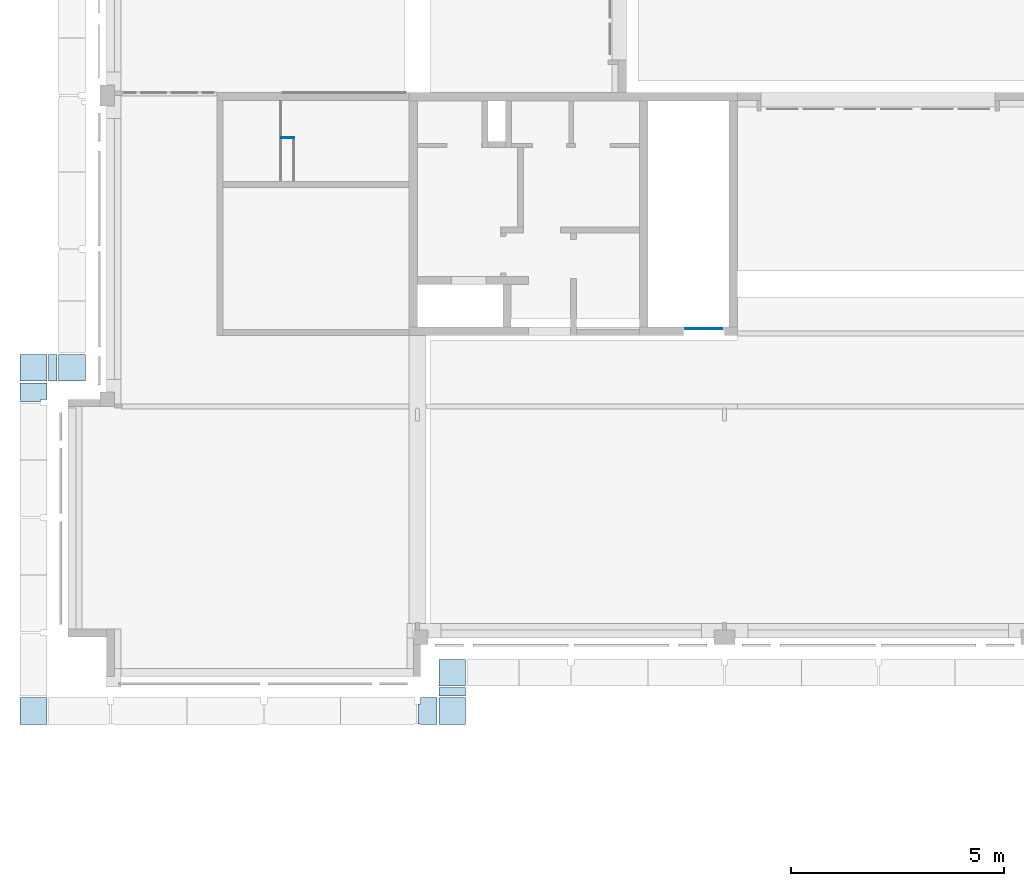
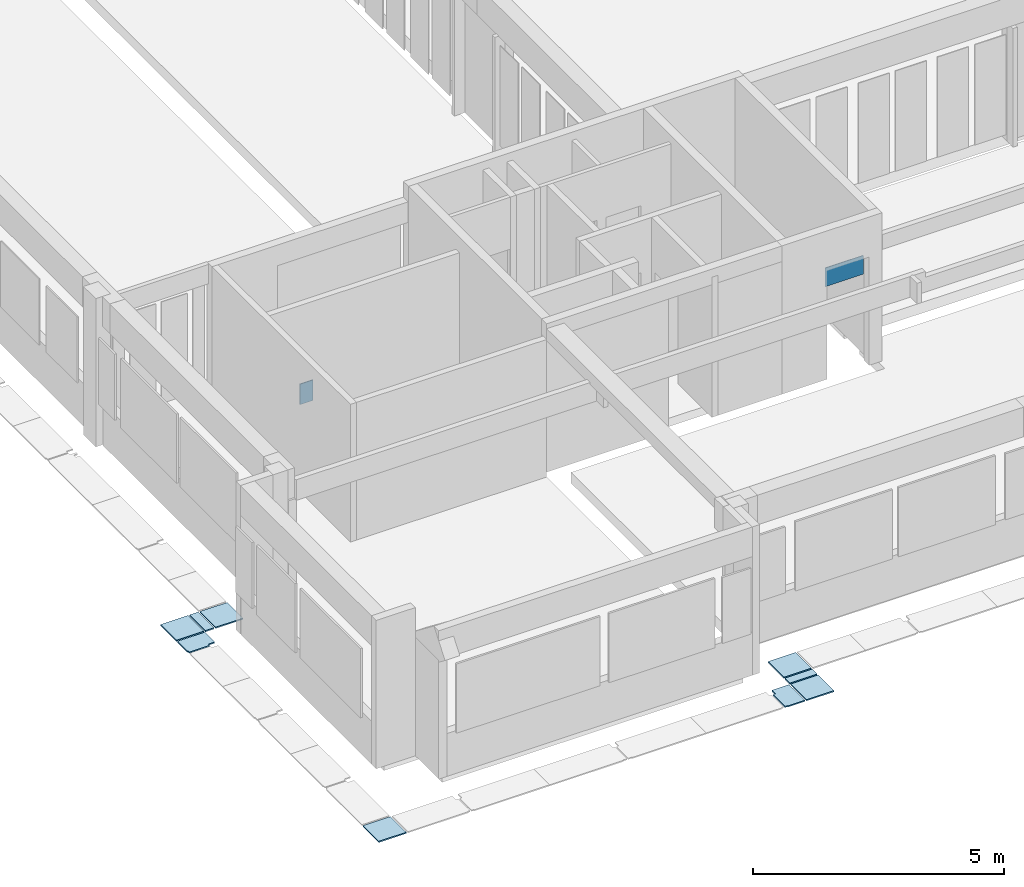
# One storey, part 11 of 30: 10 slabs, 1 plate.
"""IFC4X3_ADD2 building model written with IfcOpenShell, lengths in millimetres."""

from ifc_helpers import new_model, si_unit, direction, frame, frame_2d, origin_with_axes, origin_2d_with_axis, place, context, subcontext, project, spatial, polyline, rectangle, outline, extrude, source, transform, mapped, material, type_object, element, save


model = new_model("IFC4X3_ADD2")

# Units and contexts
model_context = context("Model", 3, precision=1e-05, world=origin_with_axes(), true_north=direction((0.0, 1.0)))
body_context = subcontext(model_context, "Body", "Model", "MODEL_VIEW")
ifc_project = project(units=[si_unit("LENGTHUNIT", "METRE", prefix="MILLI"), si_unit("AREAUNIT", "SQUARE_METRE"), si_unit("VOLUMEUNIT", "CUBIC_METRE"), si_unit("PLANEANGLEUNIT", "RADIAN"), si_unit("TIMEUNIT", "SECOND"), si_unit("MASSUNIT", "GRAM")], contexts=[model_context])

# Site, building, storey
site_placement = place(None, origin_with_axes())
site = spatial("IfcSite", under=ifc_project, at=site_placement, Name="Site", CompositionType="ELEMENT")
building_placement = place(site_placement, origin_with_axes())
building = spatial("IfcBuilding", under=site, at=building_placement, Name="IFC Building Story")
storey_placement = place(building_placement, origin_with_axes())
storey = spatial("IfcBuildingStorey", under=building, at=storey_placement, Name="000", Elevation=0.0)

# Plate
ifc_material_1 = material(Name="BB_Glas")
shared_shape = source(origin_with_axes(), body_context, "Body", "SweptSolid", [
    extrude(rectangle(XDim=878.000000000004, YDim=454.000000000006, at=origin_2d_with_axis()), frame((0.0, 0.0, -17.0), z_axis=(0.0, 0.0, 1.0), x_axis=(1.0, 0.0, 0.0)), (0.0, 0.0, 1.0), 17.0),
])
plate_placement = place(storey_placement, frame((-36780.0, 7168.0, 2284.0), z_axis=(0.0, 1.0, 0.0), x_axis=(-1.0, 0.0, 0.0)))
element("IfcPlate", 1, at=plate_placement, inside=storey, material=ifc_material_1, Name="BB_10.10_Binnenbeglazing, rechthoekig_GMO:XX_Geen", ObjectType="BB_10.10_Binnenbeglazing, rechthoekig_GMO:XX_Geen", PredefinedType="USERDEFINED", context=body_context, shape_type="MappedRepresentation", body=[
    mapped(shared_shape, transform((0.0, 0.0, 0.0))),
])

# Slabs
ifc_material_2 = material(Name="BB_09.08.21#03_Vloer_Verhoogd_Bestaande te verhogen")
slab_type_1 = type_object("IfcSlabType", Name="BB_09.08.21#03_Vloer_Verhoogd_Bestaande te verhogen 20", PredefinedType="FLOOR", material=ifc_material_2)
slab_1_placement = place(storey_placement, frame((-46695.0, 11625.0040658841, -200.0), z_axis=(0.0, -1.0, 0.0), x_axis=(1.0, 0.0, 0.0)))
element("IfcSlab", 2, at=slab_1_placement, inside=storey, type_object=slab_type_1, Name="Basic Wall:BB_09.08.XX_Rand verhoogde vloer, 20 mm", ObjectType="Basic Wall:BB_09.08.XX_Rand verhoogde vloer, 20 mm", PredefinedType="FLOOR", context=body_context, shape_type="SweptSolid", body=[
    extrude(outline(polyline([(-150.0, 247.5), (150.0, 247.5), (150.0, -247.5), (-150.0, -247.5), (-150.0, 247.5)])), frame((150.0, 247.5, -20.0), z_axis=(0.0, 0.0, 1.0), x_axis=(1.0, 0.0, 0.0)), (0.0, 0.0, 1.0), 19.99999999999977),
])
ifc_material_3 = material(Name="Steel, Galvanized - looprooster")
slab_type_2 = type_object("IfcSlabType", Name="Steel, Galvanized - looprooster 30", PredefinedType="FLOOR", material=ifc_material_3)
for number, where, z_axis, x_axis, name in (
    (3, (-52819.99839785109, 5930.001602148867, -350.0), (0.0, 0.0, 1.0), (1.0, 0.0, 0.0), "Floor:GVH - Looprooster 30 mm"),
    (4, (-51919.9983978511, 5930.000450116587, -350.0), (0.0, 0.0, 1.0), (1.0, 0.0, 0.0), "Floor:GVH - Looprooster 30 mm"),
):
    element("IfcSlab", number, at=place(storey_placement, frame(where, z_axis=z_axis, x_axis=x_axis)), inside=storey, type_object=slab_type_2, Name=name, ObjectType="Floor:GVH - Looprooster 30 mm", PredefinedType="FLOOR", context=body_context, shape_type="SweptSolid", body=[
        extrude(rectangle(XDim=629.9999999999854, YDim=629.9996566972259, at=origin_2d_with_axis()), frame((314.9999999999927, 314.9998283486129, 0.0), z_axis=(0.0, 0.0, 1.0), x_axis=(1.0, 0.0, 0.0)), (0.0, 0.0, 1.0), 30.0),
    ])
slab_2_placement = place(storey_placement, frame((-43000.0001068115, -1219.998397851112, -350.0), z_axis=(0.0, 0.0, 1.0), x_axis=(1.0, 0.0, 0.0)))
element("IfcSlab", 5, at=slab_2_placement, inside=storey, type_object=slab_type_2, Name="Floor:GVH - Looprooster 30 mm", ObjectType="Floor:GVH - Looprooster 30 mm", PredefinedType="FLOOR", context=body_context, shape_type="SweptSolid", body=[
    extrude(rectangle(XDim=629.9999999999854, YDim=629.9996566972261, at=origin_2d_with_axis()), frame((314.9999999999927, 314.9998283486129, 0.0), z_axis=(0.0, 0.0, 1.0), x_axis=(1.0, 0.0, 0.0)), (0.0, 0.0, 1.0), 30.0),
])
slab_3_placement = place(storey_placement, frame((-42999.40492426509, -2119.998397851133, -350.0), z_axis=(0.0, 0.0, 1.0), x_axis=(1.0, 0.0, 0.0)))
element("IfcSlab", 6, at=slab_3_placement, inside=storey, type_object=slab_type_2, Name="Floor:GVH - Looprooster 30 mm", ObjectType="Floor:GVH - Looprooster 30 mm", PredefinedType="FLOOR", context=body_context, shape_type="SweptSolid", body=[
    extrude(rectangle(XDim=629.9999999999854, YDim=629.9996566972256, at=origin_2d_with_axis()), frame((314.9999999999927, 314.9998283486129, 0.0), z_axis=(0.0, 0.0, 1.0), x_axis=(1.0, 0.0, 0.0)), (0.0, 0.0, 1.0), 30.0),
])
slab_4_placement = place(storey_placement, frame((-52154.99839785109, 6560.001258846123, -350.0), z_axis=(0.0, 0.0, 1.0), x_axis=(0.0, -1.0, 0.0)))
element("IfcSlab", 7, at=slab_4_placement, inside=storey, type_object=slab_type_2, Name="Floor:GVH - Looprooster 30 mm", ObjectType="Floor:GVH - Looprooster 30 mm", PredefinedType="FLOOR", context=body_context, shape_type="SweptSolid", body=[
    extrude(rectangle(XDim=629.9996566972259, YDim=199.9999999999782, at=frame_2d((0.0, 0.0), x_axis=(-1.0, 0.0))), frame((314.9998283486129, 99.99999999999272, 0.0), z_axis=(0.0, 0.0, 1.0), x_axis=(1.0, 0.0, 0.0)), (0.0, 0.0, 1.0), 30.0),
])
slab_5_placement = place(storey_placement, frame((-43000.00010681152, -1454.99874115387, -350.0), z_axis=(0.0, 0.0, 1.0), x_axis=(1.0, 0.0, 0.0)))
element("IfcSlab", 8, at=slab_5_placement, inside=storey, type_object=slab_type_2, Name="Floor:GVH - Looprooster 30 mm", ObjectType="Floor:GVH - Looprooster 30 mm", PredefinedType="FLOOR", context=body_context, shape_type="SweptSolid", body=[
    extrude(rectangle(XDim=629.9996566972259, YDim=199.9999999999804, at=origin_2d_with_axis()), frame((314.9998283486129, 99.99999999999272, 0.0), z_axis=(0.0, 0.0, 1.0), x_axis=(1.0, 0.0, 0.0)), (0.0, 0.0, 1.0), 30.0),
])
slab_6_placement = place(storey_placement, frame((-52819.99839785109, -2119.998397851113, -350.0), z_axis=(0.0, 0.0, 1.0), x_axis=(1.0, 0.0, 0.0)))
element("IfcSlab", 9, at=slab_6_placement, inside=storey, type_object=slab_type_2, Name="Floor:GVH - Looprooster 30 mm", ObjectType="Floor:GVH - Looprooster 30 mm", PredefinedType="FLOOR", context=body_context, shape_type="SweptSolid", body=[
    extrude(rectangle(XDim=629.9999999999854, YDim=629.9996566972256, at=origin_2d_with_axis()), frame((314.9999999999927, 314.9998283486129, 0.0), z_axis=(0.0, 0.0, 1.0), x_axis=(1.0, 0.0, 0.0)), (0.0, 0.0, 1.0), 30.0),
])
slab_7_placement = place(storey_placement, frame((-52819.99839785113, 5444.999963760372, -350.0), z_axis=(0.0, 0.0, 1.0), x_axis=(1.0, 0.0, 0.0)))
element("IfcSlab", 10, at=slab_7_placement, inside=storey, type_object=slab_type_2, Name="Floor:GVH - Looprooster 30 mm", ObjectType="Floor:GVH - Looprooster 30 mm", PredefinedType="FLOOR", context=body_context, shape_type="SweptSolid", body=[
    extrude(outline(polyline([(-267.5011062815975, -137.6259606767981), (-267.5011062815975, -85.62616094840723), (-282.4988174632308, -85.62616094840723), (-282.4988174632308, 308.878082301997), (347.5011825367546, 308.878082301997), (347.5011825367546, -85.6259606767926), (202.4987412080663, -85.6259606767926), (202.4987412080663, -137.6259606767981), (-267.5011062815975, -137.6259606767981)])), frame((282.4988174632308, 137.6259606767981, 0.0), z_axis=(0.0, 0.0, 1.0), x_axis=(1.0, 0.0, 0.0)), (0.0, 0.0, 1.0), 30.0),
])
slab_8_placement = place(storey_placement, frame((-43485.00000000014, -1489.998741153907, -350.0), z_axis=(0.0, 0.0, 1.0), x_axis=(0.0, -1.0, 0.0)))
element("IfcSlab", 11, at=slab_8_placement, inside=storey, type_object=slab_type_2, Name="Floor:GVH - Looprooster 30 mm", ObjectType="Floor:GVH - Looprooster 30 mm", PredefinedType="FLOOR", context=body_context, shape_type="SweptSolid", body=[
    extrude(outline(polyline([(282.4992180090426, -85.6242398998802), (267.4995613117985, -85.6242398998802), (267.4995613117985, -137.6259851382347), (-202.4983406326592, -137.6259851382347), (-202.4983406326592, -85.62423993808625), (-347.5004386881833, -85.62423993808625), (-347.5004386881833, 308.8744649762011), (282.4992180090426, 308.8744649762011), (282.4992180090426, -85.6242398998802)])), frame((347.5004386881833, 137.6259851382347, 0.0), z_axis=(0.0, 0.0, 1.0), x_axis=(1.0, 0.0, 0.0)), (0.0, 0.0, 1.0), 30.0),
])

save(model, "model.ifc")
